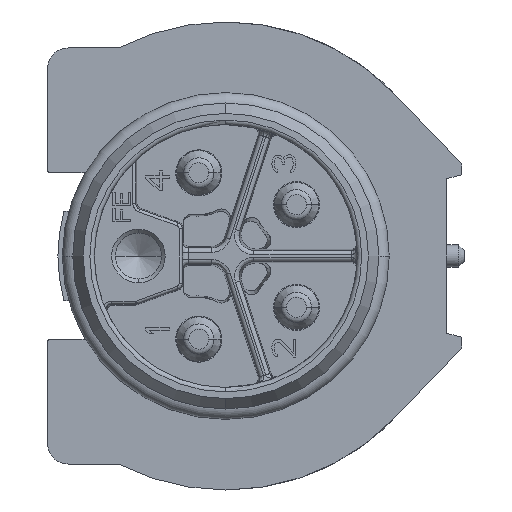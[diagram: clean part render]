
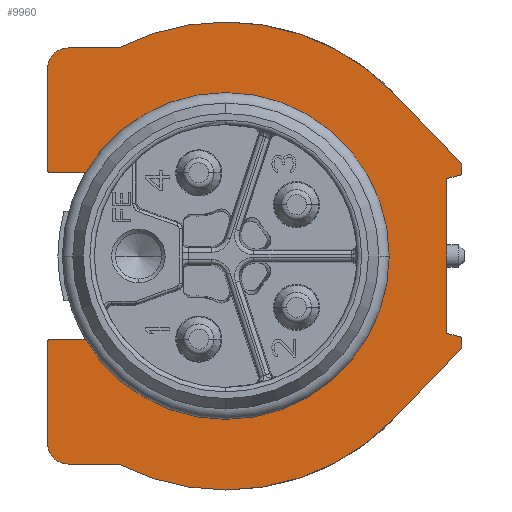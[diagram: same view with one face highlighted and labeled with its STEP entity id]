
A CAD part, left-side view. The second image highlights one B-rep face of the part: STEP entity #9960.
In plain terms, the highlighted planar face has unit normal (-1, 0, 0).
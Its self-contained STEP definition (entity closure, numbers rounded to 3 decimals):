
#132=CARTESIAN_POINT('',(19.36,8.033,-7.877));
#133=DIRECTION('',(-1.,0.,0.));
#134=DIRECTION('',(0.,0.84,-0.543));
#135=AXIS2_PLACEMENT_3D('',#132,#133,#134);
#137=CARTESIAN_POINT('',(19.36,10.074,-10.277));
#138=DIRECTION('',(-1.,0.,0.));
#139=DIRECTION('',(0.,0.648,-0.762));
#140=AXIS2_PLACEMENT_3D('',#137,#138,#139);
#142=CARTESIAN_POINT('',(19.36,8.033,-7.877));
#143=DIRECTION('',(-1.,0.,0.));
#144=DIRECTION('',(0.,-0.52,-0.854));
#145=AXIS2_PLACEMENT_3D('',#142,#143,#144);
#147=CARTESIAN_POINT('',(19.36,10.074,-5.477));
#148=DIRECTION('',(-1.,0.,0.));
#149=DIRECTION('',(0.,0.,1.));
#150=AXIS2_PLACEMENT_3D('',#147,#148,#149);
#152=CARTESIAN_POINT('',(19.36,8.033,-7.877));
#153=DIRECTION('',(-1.,0.,0.));
#154=DIRECTION('',(0.,0.648,0.762));
#155=AXIS2_PLACEMENT_3D('',#152,#153,#154);
#157=CARTESIAN_POINT('',(19.36,13.933,-4.982));
#158=DIRECTION('',(1.,0.,0.));
#159=DIRECTION('',(0.,0.,-1.));
#160=AXIS2_PLACEMENT_3D('',#157,#158,#159);
#162=DIRECTION('',(0.,0.,1.));
#163=VECTOR('',#162,3.405);
#164=CARTESIAN_POINT('',(19.36,14.033,-4.982));
#165=LINE('',#164,#163);
#166=CARTESIAN_POINT('',(19.36,13.333,-1.577));
#167=DIRECTION('',(1.,0.,0.));
#168=DIRECTION('',(0.,1.,0.));
#169=AXIS2_PLACEMENT_3D('',#166,#167,#168);
#171=CARTESIAN_POINT('',(19.36,8.033,-7.877));
#172=DIRECTION('',(1.,0.,0.));
#173=DIRECTION('',(0.,0.458,0.889));
#174=AXIS2_PLACEMENT_3D('',#171,#172,#173);
#176=CARTESIAN_POINT('',(19.36,8.033,-7.877));
#177=DIRECTION('',(1.,0.,0.));
#178=DIRECTION('',(0.,0.,1.));
#179=AXIS2_PLACEMENT_3D('',#176,#177,#178);
#181=DIRECTION('',(0.,-0.691,-0.722));
#182=VECTOR('',#181,3.246);
#183=CARTESIAN_POINT('',(19.36,2.344,-2.432));
#184=LINE('',#183,#182);
#185=DIRECTION('',(0.,0.966,-0.259));
#186=VECTOR('',#185,0.518);
#187=CARTESIAN_POINT('',(19.36,0.1,-5.143));
#188=LINE('',#187,#186);
#189=DIRECTION('',(0.,-0.966,-0.259));
#190=VECTOR('',#189,0.518);
#191=CARTESIAN_POINT('',(19.36,0.6,-10.477));
#192=LINE('',#191,#190);
#193=DIRECTION('',(0.,0.691,-0.722));
#194=VECTOR('',#193,3.246);
#195=CARTESIAN_POINT('',(19.36,0.1,-10.977));
#196=LINE('',#195,#194);
#197=CARTESIAN_POINT('',(19.36,8.033,-7.877));
#198=DIRECTION('',(1.,0.,0.));
#199=DIRECTION('',(0.,-0.722,-0.691));
#200=AXIS2_PLACEMENT_3D('',#197,#198,#199);
#202=CARTESIAN_POINT('',(19.36,8.033,-7.877));
#203=DIRECTION('',(1.,0.,0.));
#204=DIRECTION('',(0.,0.,-1.));
#205=AXIS2_PLACEMENT_3D('',#202,#203,#204);
#207=CARTESIAN_POINT('',(19.36,13.333,-14.177));
#208=DIRECTION('',(1.,0.,0.));
#209=DIRECTION('',(0.,0.,-1.));
#210=AXIS2_PLACEMENT_3D('',#207,#208,#209);
#212=CARTESIAN_POINT('',(19.36,13.933,-10.772));
#213=DIRECTION('',(1.,0.,0.));
#214=DIRECTION('',(0.,1.,0.));
#215=AXIS2_PLACEMENT_3D('',#212,#213,#214);
#220=CARTESIAN_POINT('',(19.36,12.358,-5.081));
#237=DIRECTION('',(0.,1.,0.));
#238=VECTOR('',#237,4.717);
#239=CARTESIAN_POINT('',(19.36,5.357,-12.277));
#240=LINE('',#239,#238);
#5028=DIRECTION('',(0.,-1.,0.));
#5029=VECTOR('',#5028,4.717);
#5030=CARTESIAN_POINT('',(19.36,10.074,-3.477));
#5031=LINE('',#5030,#5029);
#5087=DIRECTION('',(0.,0.,-1.));
#5088=VECTOR('',#5087,3.405);
#5089=CARTESIAN_POINT('',(19.36,14.033,-10.772));
#5090=LINE('',#5089,#5088);
#5116=DIRECTION('',(0.,1.,0.));
#5117=VECTOR('',#5116,1.575);
#5118=CARTESIAN_POINT('',(19.36,12.359,-10.672));
#5119=LINE('',#5118,#5117);
#5136=DIRECTION('',(0.,-1.,0.));
#5137=VECTOR('',#5136,1.692);
#5138=CARTESIAN_POINT('',(19.36,13.333,-14.877));
#5139=LINE('',#5138,#5137);
#5160=DIRECTION('',(0.,0.,1.));
#5161=VECTOR('',#5160,0.366);
#5162=CARTESIAN_POINT('',(19.36,0.1,-10.977));
#5163=LINE('',#5162,#5161);
#5425=DIRECTION('',(0.,0.,1.));
#5426=VECTOR('',#5425,5.2);
#5427=CARTESIAN_POINT('',(19.36,0.6,-10.477));
#5428=LINE('',#5427,#5426);
#5587=DIRECTION('',(0.,0.,1.));
#5588=VECTOR('',#5587,0.366);
#5589=CARTESIAN_POINT('',(19.36,0.1,-5.143));
#5590=LINE('',#5589,#5588);
#5603=DIRECTION('',(0.,1.,0.));
#5604=VECTOR('',#5603,1.692);
#5605=CARTESIAN_POINT('',(19.36,11.641,-0.877));
#5606=LINE('',#5605,#5604);
#7729=DIRECTION('',(0.,-1.,0.));
#7730=VECTOR('',#7729,1.575);
#7731=CARTESIAN_POINT('',(19.36,13.933,-5.082));
#7732=LINE('',#7731,#7730);
#7800=VERTEX_POINT('',#220);
#7801=CARTESIAN_POINT('',(19.36,14.033,-4.982));
#7802=CARTESIAN_POINT('',(19.36,14.033,-1.577));
#7803=VERTEX_POINT('',#7801);
#7804=VERTEX_POINT('',#7802);
#7807=CARTESIAN_POINT('',(19.36,12.359,-10.671));
#7808=CARTESIAN_POINT('',(19.36,11.369,-11.801));
#7809=VERTEX_POINT('',#7807);
#7810=VERTEX_POINT('',#7808);
#7811=CARTESIAN_POINT('',(19.36,10.074,-12.277));
#7812=VERTEX_POINT('',#7811);
#7813=CARTESIAN_POINT('',(19.36,5.357,-12.277));
#7814=VERTEX_POINT('',#7813);
#7815=CARTESIAN_POINT('',(19.36,5.357,-3.477));
#7816=VERTEX_POINT('',#7815);
#7817=CARTESIAN_POINT('',(19.36,10.074,-3.477));
#7818=VERTEX_POINT('',#7817);
#7819=CARTESIAN_POINT('',(19.36,11.369,-3.953));
#7820=VERTEX_POINT('',#7819);
#7821=CARTESIAN_POINT('',(19.36,13.933,-5.082));
#7822=VERTEX_POINT('',#7821);
#7823=CARTESIAN_POINT('',(19.36,13.333,-0.877));
#7824=VERTEX_POINT('',#7823);
#7825=CARTESIAN_POINT('',(19.36,11.641,-0.877));
#7826=VERTEX_POINT('',#7825);
#7827=CARTESIAN_POINT('',(19.36,8.033,-0.002));
#7828=VERTEX_POINT('',#7827);
#7829=CARTESIAN_POINT('',(19.36,2.344,-2.432));
#7830=VERTEX_POINT('',#7829);
#7831=CARTESIAN_POINT('',(19.36,0.1,-4.777));
#7832=VERTEX_POINT('',#7831);
#7833=CARTESIAN_POINT('',(19.36,0.1,-5.143));
#7834=VERTEX_POINT('',#7833);
#7835=CARTESIAN_POINT('',(19.36,0.6,-5.277));
#7836=VERTEX_POINT('',#7835);
#7837=CARTESIAN_POINT('',(19.36,0.6,-10.477));
#7838=VERTEX_POINT('',#7837);
#7839=CARTESIAN_POINT('',(19.36,0.1,-10.611));
#7840=VERTEX_POINT('',#7839);
#7841=CARTESIAN_POINT('',(19.36,0.1,-10.977));
#7842=VERTEX_POINT('',#7841);
#7843=CARTESIAN_POINT('',(19.36,2.344,-13.322));
#7844=VERTEX_POINT('',#7843);
#7845=CARTESIAN_POINT('',(19.36,8.033,-15.752));
#7846=VERTEX_POINT('',#7845);
#7847=CARTESIAN_POINT('',(19.36,11.641,-14.877));
#7848=VERTEX_POINT('',#7847);
#7849=CARTESIAN_POINT('',(19.36,13.333,-14.877));
#7850=VERTEX_POINT('',#7849);
#7851=CARTESIAN_POINT('',(19.36,14.033,-14.177));
#7852=VERTEX_POINT('',#7851);
#7853=CARTESIAN_POINT('',(19.36,14.033,-10.772));
#7854=VERTEX_POINT('',#7853);
#7855=CARTESIAN_POINT('',(19.36,13.933,-10.672));
#7856=VERTEX_POINT('',#7855);
#9898=CARTESIAN_POINT('',(19.36,7.067,-7.877));
#9899=DIRECTION('',(1.,0.,0.));
#9900=DIRECTION('',(0.,0.,-1.));
#9901=AXIS2_PLACEMENT_3D('',#9898,#9899,#9900);
#9902=PLANE('',#9901);
#9904=ORIENTED_EDGE('',*,*,#9903,.T.);
#9906=ORIENTED_EDGE('',*,*,#9905,.T.);
#9908=ORIENTED_EDGE('',*,*,#9907,.F.);
#9910=ORIENTED_EDGE('',*,*,#9909,.T.);
#9912=ORIENTED_EDGE('',*,*,#9911,.F.);
#9914=ORIENTED_EDGE('',*,*,#9913,.T.);
#9916=ORIENTED_EDGE('',*,*,#9915,.T.);
#9918=ORIENTED_EDGE('',*,*,#9917,.F.);
#9920=ORIENTED_EDGE('',*,*,#9919,.T.);
#9921=ORIENTED_EDGE('',*,*,#9878,.T.);
#9923=ORIENTED_EDGE('',*,*,#9922,.T.);
#9925=ORIENTED_EDGE('',*,*,#9924,.F.);
#9927=ORIENTED_EDGE('',*,*,#9926,.T.);
#9929=ORIENTED_EDGE('',*,*,#9928,.T.);
#9931=ORIENTED_EDGE('',*,*,#9930,.T.);
#9933=ORIENTED_EDGE('',*,*,#9932,.F.);
#9935=ORIENTED_EDGE('',*,*,#9934,.T.);
#9937=ORIENTED_EDGE('',*,*,#9936,.F.);
#9939=ORIENTED_EDGE('',*,*,#9938,.T.);
#9941=ORIENTED_EDGE('',*,*,#9940,.F.);
#9943=ORIENTED_EDGE('',*,*,#9942,.T.);
#9945=ORIENTED_EDGE('',*,*,#9944,.T.);
#9947=ORIENTED_EDGE('',*,*,#9946,.T.);
#9949=ORIENTED_EDGE('',*,*,#9948,.F.);
#9951=ORIENTED_EDGE('',*,*,#9950,.T.);
#9953=ORIENTED_EDGE('',*,*,#9952,.F.);
#9955=ORIENTED_EDGE('',*,*,#9954,.T.);
#9957=ORIENTED_EDGE('',*,*,#9956,.F.);
#9958=EDGE_LOOP('',(#9904,#9906,#9908,#9910,#9912,#9914,#9916,#9918,#9920,#9921,
#9923,#9925,#9927,#9929,#9931,#9933,#9935,#9937,#9939,#9941,#9943,#9945,#9947,
#9949,#9951,#9953,#9955,#9957));
#9959=FACE_OUTER_BOUND('',#9958,.F.);
#9960=ADVANCED_FACE('',(#9959),#9902,.F.);
#136=CIRCLE('',#135,5.15);
#141=CIRCLE('',#140,2.);
#146=CIRCLE('',#145,5.15);
#151=CIRCLE('',#150,2.);
#156=CIRCLE('',#155,5.15);
#161=CIRCLE('',#160,0.1);
#170=CIRCLE('',#169,0.7);
#175=CIRCLE('',#174,7.875);
#180=CIRCLE('',#179,7.875);
#201=CIRCLE('',#200,7.875);
#206=CIRCLE('',#205,7.875);
#211=CIRCLE('',#210,0.7);
#216=CIRCLE('',#215,0.1);
#9878=EDGE_CURVE('',#7803,#7804,#165,.T.);
#9903=EDGE_CURVE('',#7809,#7810,#136,.T.);
#9905=EDGE_CURVE('',#7810,#7812,#141,.T.);
#9907=EDGE_CURVE('',#7814,#7812,#240,.T.);
#9909=EDGE_CURVE('',#7814,#7816,#146,.T.);
#9911=EDGE_CURVE('',#7818,#7816,#5031,.T.);
#9913=EDGE_CURVE('',#7818,#7820,#151,.T.);
#9915=EDGE_CURVE('',#7820,#7800,#156,.T.);
#9917=EDGE_CURVE('',#7822,#7800,#7732,.T.);
#9919=EDGE_CURVE('',#7822,#7803,#161,.T.);
#9922=EDGE_CURVE('',#7804,#7824,#170,.T.);
#9924=EDGE_CURVE('',#7826,#7824,#5606,.T.);
#9926=EDGE_CURVE('',#7826,#7828,#175,.T.);
#9928=EDGE_CURVE('',#7828,#7830,#180,.T.);
#9930=EDGE_CURVE('',#7830,#7832,#184,.T.);
#9932=EDGE_CURVE('',#7834,#7832,#5590,.T.);
#9934=EDGE_CURVE('',#7834,#7836,#188,.T.);
#9936=EDGE_CURVE('',#7838,#7836,#5428,.T.);
#9938=EDGE_CURVE('',#7838,#7840,#192,.T.);
#9940=EDGE_CURVE('',#7842,#7840,#5163,.T.);
#9942=EDGE_CURVE('',#7842,#7844,#196,.T.);
#9944=EDGE_CURVE('',#7844,#7846,#201,.T.);
#9946=EDGE_CURVE('',#7846,#7848,#206,.T.);
#9948=EDGE_CURVE('',#7850,#7848,#5139,.T.);
#9950=EDGE_CURVE('',#7850,#7852,#211,.T.);
#9952=EDGE_CURVE('',#7854,#7852,#5090,.T.);
#9954=EDGE_CURVE('',#7854,#7856,#216,.T.);
#9956=EDGE_CURVE('',#7809,#7856,#5119,.T.);
